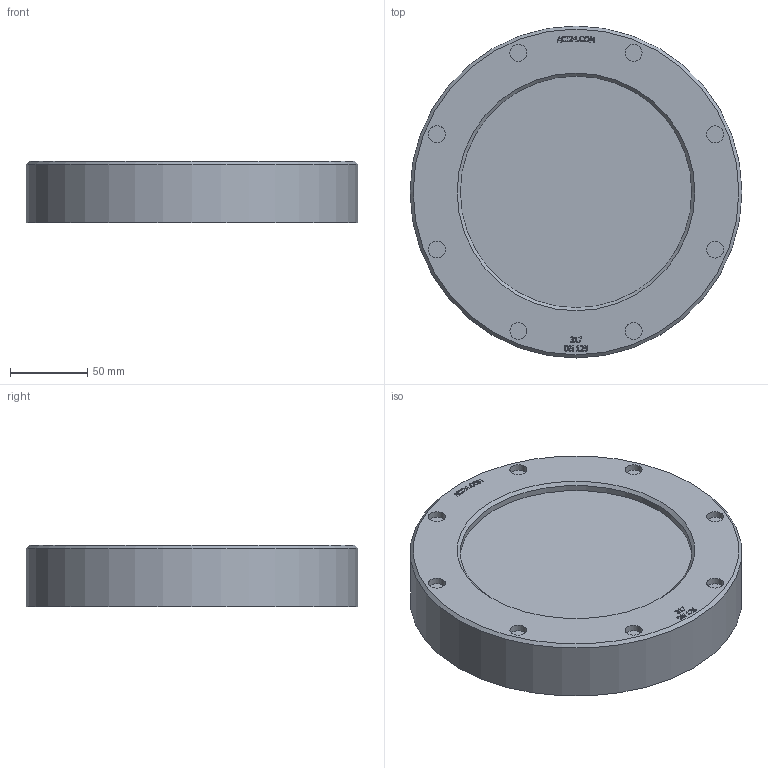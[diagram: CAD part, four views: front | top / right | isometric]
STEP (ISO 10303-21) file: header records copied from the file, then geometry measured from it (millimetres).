
FILE_DESCRIPTION(/* description */ (''),/* implementation_level */ '2;1');
FILE_NAME(/* name */ 'W:\Konstruktion_ACI\317\_STEP\ACI-317-125.stp',/* time_stamp */ '2022-03-02T17:54:13+01:00',/* author */ ('Travnicek'),/* organization */ (''),/* preprocessor_version */ 'ST-DEVELOPER v16.1',/* originating_system */ 'Autodesk Inventor 2016',/* authorisation */ '');
FILE_SCHEMA (('AUTOMOTIVE_DESIGN { 1 0 10303 214 3 1 1 }'));
Length unit declared in the file: centimetre
Products named in the file (1): ACI-317-125.stp
Bounding box: 215 x 215 x 40 mm (x, y, z)
Volume: 1159977.3 mm3; surface area: 105983.6 mm2
Topology: 1 solids, 1 shells, 289 faces, 765 edges, 509 vertices
Faces by surface type: plane 165, bspline 110, cylinder 11, cone 3
Full cylindrical faces by diameter (mm): 11 x8, 150 x2, 215 x1
Entity records: 9695 total; most frequent: CARTESIAN_POINT 2980, ORIENTED_EDGE 1502, DIRECTION 916, EDGE_CURVE 751, VERTEX_POINT 509, LINE 506, VECTOR 506, EDGE_LOOP 334
